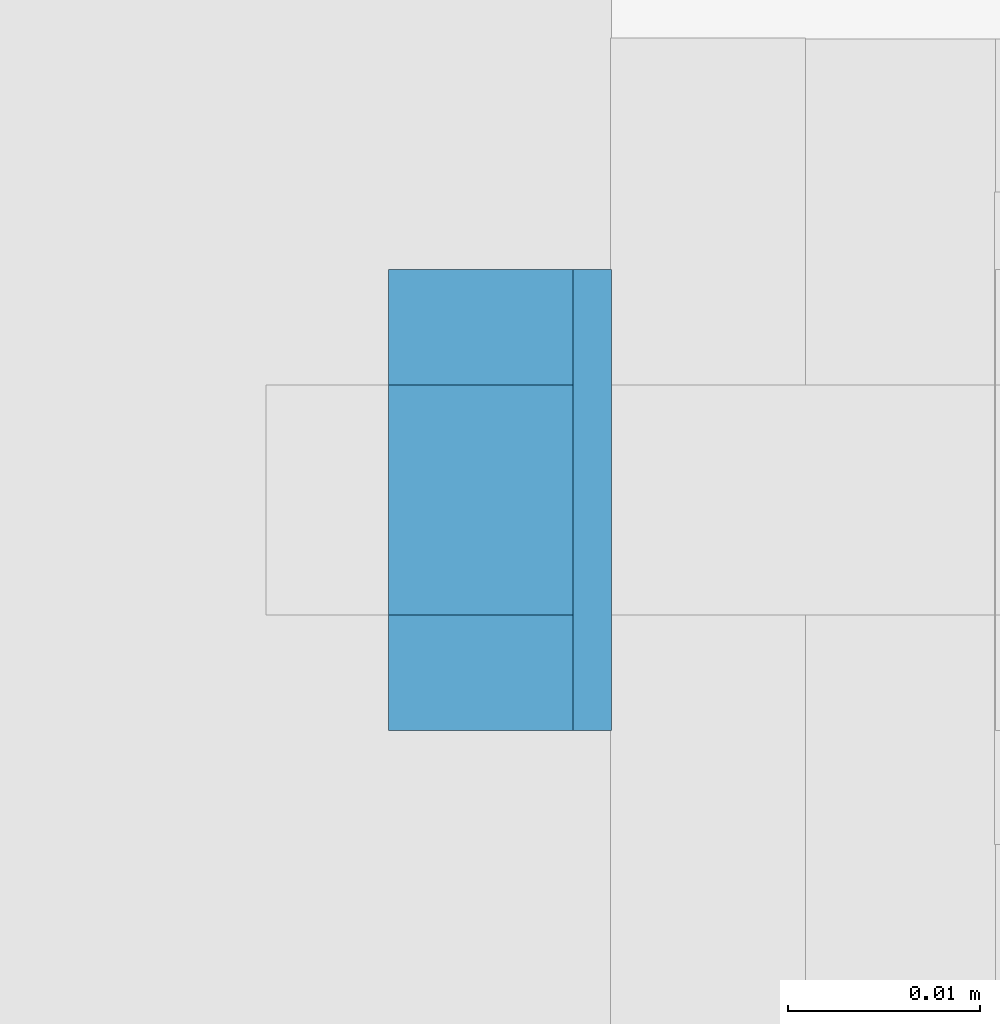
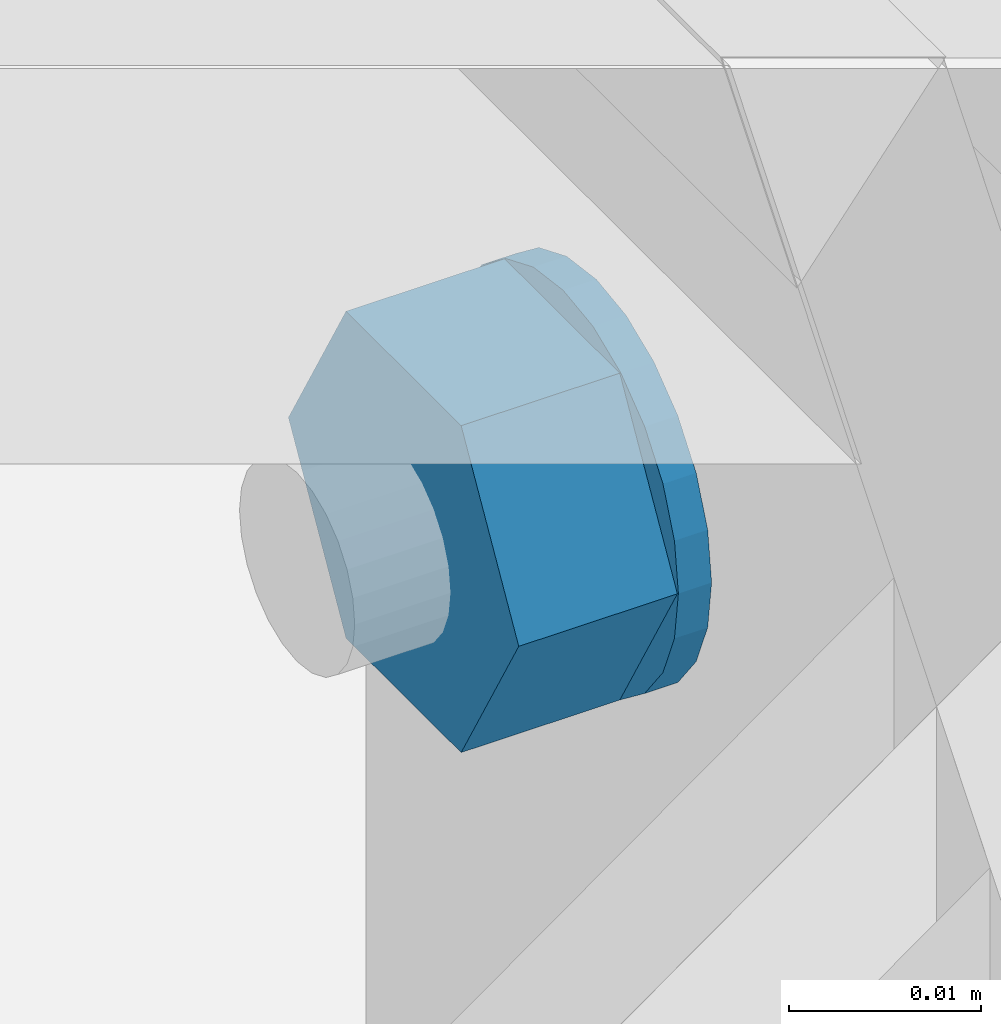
# One storey, part 35 of 66: 2 mechanical fasteners.
"""IFC4 building model written with IfcOpenShell, lengths in metres."""

from ifc_helpers import new_model, si_unit, frame, origin_with_axes, place, context, project, spatial, polyline, outline, extrude, type_object, element, save


model = new_model("IFC4")

# Units and contexts
model_context = context("Model", 3, precision=1e-05, world=origin_with_axes())
ifc_project = project(units=[si_unit("LENGTHUNIT", "METRE"), si_unit("AREAUNIT", "SQUARE_METRE"), si_unit("VOLUMEUNIT", "CUBIC_METRE"), si_unit("MASSUNIT", "GRAM", prefix="KILO"), si_unit("TIMEUNIT", "SECOND"), si_unit("PLANEANGLEUNIT", "RADIAN"), si_unit("SOLIDANGLEUNIT", "STERADIAN"), si_unit("THERMODYNAMICTEMPERATUREUNIT", "DEGREE_CELSIUS")], contexts=[model_context])

# Site, building, storey
placement_1 = place(None, origin_with_axes())
site = spatial("IfcSite", under=ifc_project, at=placement_1, Name="Italia", CompositionType="ELEMENT")
building = spatial("IfcBuilding", under=site, at=placement_1, Name="Uffici", CompositionType="ELEMENT")
storey_placement = place(None, frame((0.0, 0.0, 3.299999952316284), z_axis=(0.0, 0.0, 1.0), x_axis=(1.0, 0.0, 0.0)))
storey = spatial("IfcBuildingStorey", under=building, at=storey_placement, Name="Storey 1", CompositionType="ELEMENT", Elevation=3.299999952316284)

# Mechanical fasteners
mechanical_fastener_type_1 = type_object("IfcMechanicalFastenerType", Name="Collegamento -012_-013", PredefinedType="BOLT")
placement_2 = place(placement_1, origin_with_axes())
mechanical_fastener_1_placement = place(placement_2, origin_with_axes())
element("IfcMechanicalFastener", 1, at=mechanical_fastener_1_placement, inside=storey, type_object=mechanical_fastener_type_1, Name="Collegamento -012_-013", NominalDiameter=0.0119999, context=model_context, shape_type="SweptSolid", body=[
    extrude(outline(polyline([(0.0, 0.0), (-0.0120001, 0.0), (-0.0180001, 0.0103922), (-0.0120001, 0.0207846), (0.0, 0.0207846), (0.00600004, 0.0103922), (0.0, 0.0)])), frame((3.3134, 3.63533, 3.25561), z_axis=(1.0, 0.0, 0.0), x_axis=(0.0, 1.0, 0.0)), (0.0, 0.0, 1.0), 0.00959992),
])
mechanical_fastener_type_2 = type_object("IfcMechanicalFastenerType", Name="Collegamento -012_-013", PredefinedType="BOLT")
mechanical_fastener_2_placement = place(placement_2, origin_with_axes())
element("IfcMechanicalFastener", 2, at=mechanical_fastener_2_placement, inside=storey, type_object=mechanical_fastener_type_2, Name="Collegamento -012_-013", NominalDiameter=0.024, context=model_context, shape_type="SweptSolid", body=[
    extrude(outline(polyline([(0.0, 0.0), (-0.000408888, -0.00310588), (-0.00160789, -0.00600004), (-0.00351477, -0.00848532), (-0.00600004, -0.0103922), (-0.00889421, -0.0115912), (-0.0120001, -0.0120001), (-0.015106, -0.0115912), (-0.0180001, -0.0103922), (-0.0204854, -0.00848532), (-0.0223923, -0.00600004), (-0.0235913, -0.00310588), (-0.0240002, 0.0), (-0.0235913, 0.00310588), (-0.0223923, 0.00600004), (-0.0204854, 0.00848532), (-0.0180001, 0.0103922), (-0.015106, 0.0115912), (-0.0120001, 0.0120001), (-0.00889421, 0.0115912), (-0.00600004, 0.0103922), (-0.00351477, 0.00848532), (-0.00160789, 0.00600004), (-0.000408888, 0.00310588), (0.0, 0.0)])), frame((3.323, 3.64133, 3.266), z_axis=(1.0, 0.0, 0.0), x_axis=(0.0, 1.0, 0.0)), (0.0, 0.0, 1.0), 0.00200009),
])

save(model, "model.ifc")
